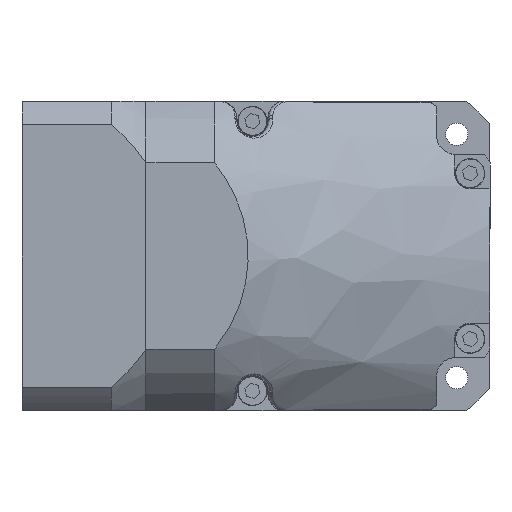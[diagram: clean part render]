
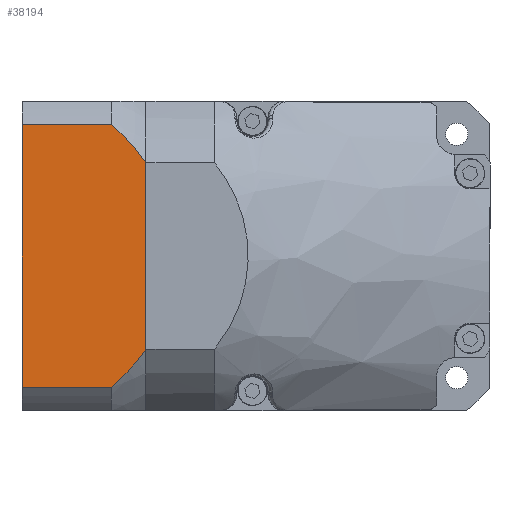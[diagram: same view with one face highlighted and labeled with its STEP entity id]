
A CAD part, front view. The second image highlights one B-rep face of the part: STEP entity #38194.
In plain terms, the highlighted planar face has unit normal (0, -1, 0).
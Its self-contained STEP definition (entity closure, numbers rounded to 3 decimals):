
#667 = B_SPLINE_CURVE_WITH_KNOTS ( 'NONE', 3,
 ( #4055, #21542, #11075, #35671, #14629, #39198 ),
 .UNSPECIFIED., .F., .F.,
 ( 4, 2, 4 ),
 ( 0., 0.007, 0.015 ),
 .UNSPECIFIED. ) ;
#787 = VERTEX_POINT ( 'NONE', #27427 ) ;
#878 = CARTESIAN_POINT ( 'NONE',  ( 38.158, -45., -36. ) ) ;
#1058 = VERTEX_POINT ( 'NONE', #35574 ) ;
#1603 = CARTESIAN_POINT ( 'NONE',  ( -36.502, -45., -8.112 ) ) ;
#4055 = CARTESIAN_POINT ( 'NONE',  ( 38.158, -45., -10. ) ) ;
#4880 = VECTOR ( 'NONE', #11453, 1000. ) ;
#5130 = CARTESIAN_POINT ( 'NONE',  ( -38.158, -45., -10. ) ) ;
#5181 = CARTESIAN_POINT ( 'NONE',  ( 0., -45., 0. ) ) ;
#5699 = PLANE ( 'NONE',  #40477 ) ;
#6791 = CARTESIAN_POINT ( 'NONE',  ( -27.042, -45., 0. ) ) ;
#7596 = VECTOR ( 'NONE', #36963, 1000. ) ;
#8309 = EDGE_CURVE ( 'NONE', #38949, #22684, #11317, .T. ) ;
#8798 = ORIENTED_EDGE ( 'NONE', *, *, #8309, .T. ) ;
#9733 = FACE_OUTER_BOUND ( 'NONE', #12848, .T. ) ;
#11075 = CARTESIAN_POINT ( 'NONE',  ( 34.792, -45., -6.289 ) ) ;
#11317 = LINE ( 'NONE', #37824, #31132 ) ;
#11453 = DIRECTION ( 'NONE',  ( 1., 0., 0. ) ) ;
#11861 = ORIENTED_EDGE ( 'NONE', *, *, #30220, .T. ) ;
#12009 = CARTESIAN_POINT ( 'NONE',  ( -29.122, -45., -1.407 ) ) ;
#12848 = EDGE_LOOP ( 'NONE', ( #29547, #25379, #8798, #41516, #35618, #11861 ) ) ;
#14629 = CARTESIAN_POINT ( 'NONE',  ( 29.126, -45., -1.409 ) ) ;
#16329 = DIRECTION ( 'NONE',  ( 0., -1., 0. ) ) ;
#16801 = DIRECTION ( 'NONE',  ( 0., 0., 1. ) ) ;
#16960 = LINE ( 'NONE', #5181, #7596 ) ;
#18557 = CARTESIAN_POINT ( 'NONE',  ( -45., -45., -36. ) ) ;
#19115 = CARTESIAN_POINT ( 'NONE',  ( -31.084, -45., -2.948 ) ) ;
#20617 = VERTEX_POINT ( 'NONE', #6791 ) ;
#21149 = VECTOR ( 'NONE', #23414, 1000. ) ;
#21542 = CARTESIAN_POINT ( 'NONE',  ( 36.531, -45., -8.082 ) ) ;
#22619 = CARTESIAN_POINT ( 'NONE',  ( -34.76, -45., -6.317 ) ) ;
#22684 = VERTEX_POINT ( 'NONE', #31926 ) ;
#23414 = DIRECTION ( 'NONE',  ( 0., 0., -1. ) ) ;
#25379 = ORIENTED_EDGE ( 'NONE', *, *, #29439, .T. ) ;
#26144 = CARTESIAN_POINT ( 'NONE',  ( -37.346, -45., -9.043 ) ) ;
#27028 = EDGE_CURVE ( 'NONE', #22684, #45426, #667, .T. ) ;
#27427 = CARTESIAN_POINT ( 'NONE',  ( -38.158, -45., -10. ) ) ;
#29370 = LINE ( 'NONE', #44439, #21149 ) ;
#29439 = EDGE_CURVE ( 'NONE', #1058, #38949, #32884, .T. ) ;
#29528 = B_SPLINE_CURVE_WITH_KNOTS ( 'NONE', 3,
 ( #36607, #12009, #19115, #43653, #22619, #1603, #26144, #5130 ),
 .UNSPECIFIED., .F., .F.,
 ( 4, 2, 2, 4 ),
 ( 0., 0.007, 0.011, 0.015 ),
 .UNSPECIFIED. ) ;
#29547 = ORIENTED_EDGE ( 'NONE', *, *, #30644, .T. ) ;
#29611 = EDGE_CURVE ( 'NONE', #20617, #45426, #16960, .T. ) ;
#30220 = EDGE_CURVE ( 'NONE', #20617, #787, #29528, .T. ) ;
#30644 = EDGE_CURVE ( 'NONE', #787, #1058, #29370, .T. ) ;
#31132 = VECTOR ( 'NONE', #16801, 1000. ) ;
#31926 = CARTESIAN_POINT ( 'NONE',  ( 38.158, -45., -10. ) ) ;
#32884 = LINE ( 'NONE', #18557, #4880 ) ;
#35574 = CARTESIAN_POINT ( 'NONE',  ( -38.158, -45., -36. ) ) ;
#35618 = ORIENTED_EDGE ( 'NONE', *, *, #29611, .F. ) ;
#35671 = CARTESIAN_POINT ( 'NONE',  ( 31.09, -45., -2.953 ) ) ;
#36607 = CARTESIAN_POINT ( 'NONE',  ( -27.042, -45., 0. ) ) ;
#36855 = CARTESIAN_POINT ( 'NONE',  ( 27.042, -45., 0. ) ) ;
#36963 = DIRECTION ( 'NONE',  ( 1., 0., 0. ) ) ;
#37824 = CARTESIAN_POINT ( 'NONE',  ( 38.158, -45., -36. ) ) ;
#38194 = ADVANCED_FACE ( 'NONE', ( #9733 ), #5699, .T. ) ;
#38949 = VERTEX_POINT ( 'NONE', #878 ) ;
#39198 = CARTESIAN_POINT ( 'NONE',  ( 27.042, -45., 0. ) ) ;
#40477 = AXIS2_PLACEMENT_3D ( 'NONE', #44243, #16329, #40882 ) ;
#40882 = DIRECTION ( 'NONE',  ( 0., 0., -1. ) ) ;
#41516 = ORIENTED_EDGE ( 'NONE', *, *, #27028, .T. ) ;
#43653 = CARTESIAN_POINT ( 'NONE',  ( -33.862, -45., -5.451 ) ) ;
#44243 = CARTESIAN_POINT ( 'NONE',  ( -45., -45., -36. ) ) ;
#44439 = CARTESIAN_POINT ( 'NONE',  ( -38.158, -45., -36. ) ) ;
#45426 = VERTEX_POINT ( 'NONE', #36855 ) ;
